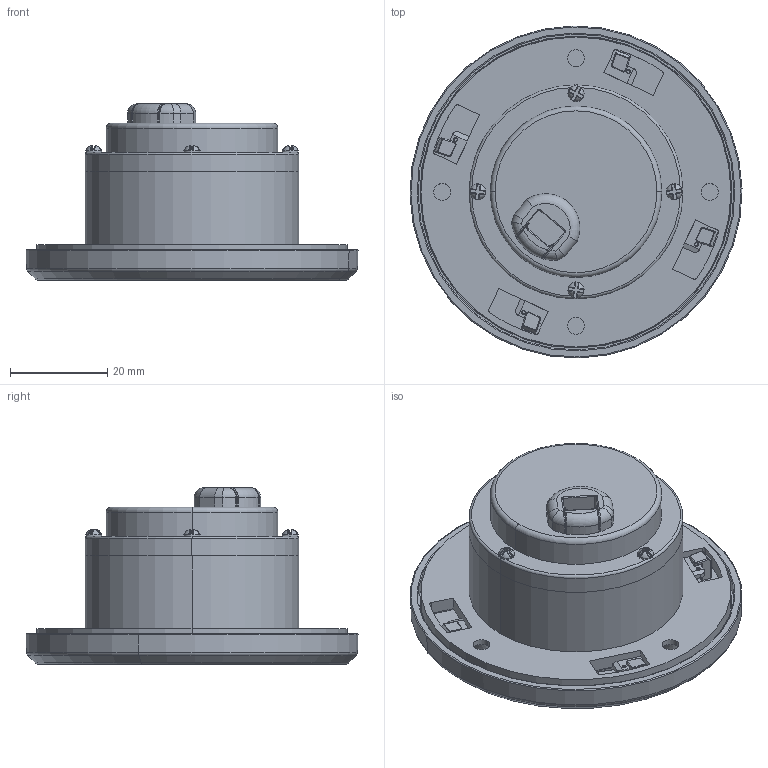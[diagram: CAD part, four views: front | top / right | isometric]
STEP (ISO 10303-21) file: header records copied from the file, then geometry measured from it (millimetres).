
FILE_DESCRIPTION (( 'STEP AP214' ), '1' );
FILE_NAME ('TFH6-A.STEP', '2015-06-03T09:37:45', ( '' ), ( '' ), 'SwSTEP 2.0', 'SolidWorks 2010', '' );
FILE_SCHEMA (( 'AUTOMOTIVE_DESIGN' ));
Length unit declared in the file: millimetre
Products named in the file (1): TFH6-A
Bounding box: 68.31 x 68.31 x 36.3 mm (x, y, z)
Volume: 56567.6 mm3; surface area: 22419.3 mm2
Topology: 8 solids, 8 shells, 625 faces, 1518 edges, 896 vertices
Faces by surface type: cylinder 197, plane 169, torus 106, bspline 64, sphere 46, cone 43
Entity records: 29736 total; most frequent: CARTESIAN_POINT 8435, DIRECTION 3106, ORIENTED_EDGE 2988, EDGE_CURVE 1494, AXIS2_PLACEMENT_3D 1269, VERTEX_POINT 892, CIRCLE 707, EDGE_LOOP 664
